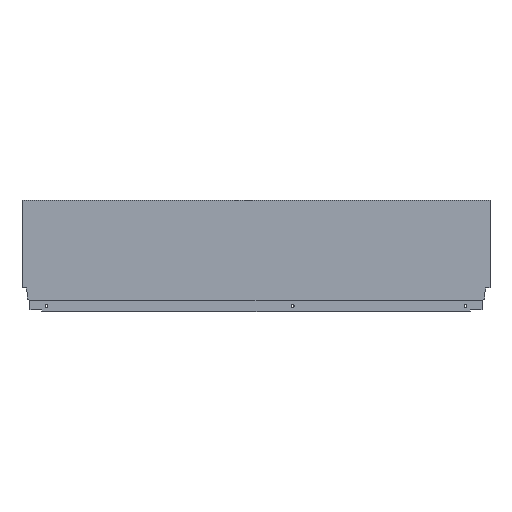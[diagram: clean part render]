
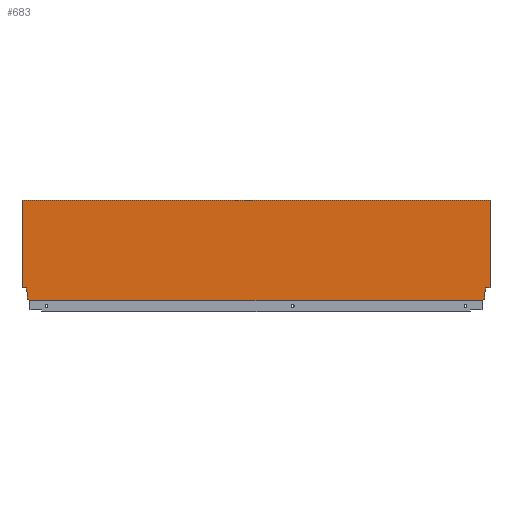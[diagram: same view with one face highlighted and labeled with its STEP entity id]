
A CAD part, top view. The second image highlights one B-rep face of the part: STEP entity #683.
In plain terms, the highlighted planar face has unit normal (0, 0, 1).
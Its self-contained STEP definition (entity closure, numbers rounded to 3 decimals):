
#191 = CARTESIAN_POINT ( 'NONE',  ( -765., 0., 7.5 ) ) ;
#193 = PLANE ( 'NONE',  #1266 ) ;
#196 = DIRECTION ( 'NONE',  ( 0., 0., 1. ) ) ;
#198 = DIRECTION ( 'NONE',  ( 1., 0., 0. ) ) ;
#204 = DIRECTION ( 'NONE',  ( -0.174, 0.985, 0. ) ) ;
#205 = CARTESIAN_POINT ( 'NONE',  ( -756.1, 2.64, 7.5 ) ) ;
#240 = CARTESIAN_POINT ( 'NONE',  ( 0., 164.7, 7.5 ) ) ;
#250 = CARTESIAN_POINT ( 'NONE',  ( -765., 21.2, 7.5 ) ) ;
#256 = CARTESIAN_POINT ( 'NONE',  ( -13.004, 1.146, 7.5 ) ) ;
#258 = CARTESIAN_POINT ( 'NONE',  ( -756.1, 2.64, 7.5 ) ) ;
#261 = CARTESIAN_POINT ( 'NONE',  ( -757.94, 21.2, 7.5 ) ) ;
#262 = DIRECTION ( 'NONE',  ( 1., 0., 0. ) ) ;
#264 = CARTESIAN_POINT ( 'NONE',  ( -751.996, 1.146, 7.5 ) ) ;
#265 = CARTESIAN_POINT ( 'NONE',  ( -751.996, 0., 7.5 ) ) ;
#285 = CARTESIAN_POINT ( 'NONE',  ( -8.9, 10.765, 7.5 ) ) ;
#287 = CARTESIAN_POINT ( 'NONE',  ( -8.9, 2.64, 7.5 ) ) ;
#299 = CARTESIAN_POINT ( 'NONE',  ( -756.1, 10.765, 7.5 ) ) ;
#300 = CARTESIAN_POINT ( 'NONE',  ( 0., 21.2, 7.5 ) ) ;
#309 = CARTESIAN_POINT ( 'NONE',  ( -765., 164.7, 7.5 ) ) ;
#313 = CARTESIAN_POINT ( 'NONE',  ( -7.06, 21.2, 7.5 ) ) ;
#316 = CARTESIAN_POINT ( 'NONE',  ( -13.004, 0., 7.5 ) ) ;
#339 = VERTEX_POINT ( 'NONE', #316 ) ;
#342 = VERTEX_POINT ( 'NONE', #313 ) ;
#346 = VERTEX_POINT ( 'NONE', #309 ) ;
#356 = VERTEX_POINT ( 'NONE', #300 ) ;
#357 = VERTEX_POINT ( 'NONE', #299 ) ;
#376 = DIRECTION ( 'NONE',  ( -0.94, -0.342, 0. ) ) ;
#377 = CARTESIAN_POINT ( 'NONE',  ( 0., 0., 7.5 ) ) ;
#378 = CARTESIAN_POINT ( 'NONE',  ( -8.9, 2.64, 7.5 ) ) ;
#379 = VERTEX_POINT ( 'NONE', #287 ) ;
#380 = CARTESIAN_POINT ( 'NONE',  ( -757.94, 21.2, 7.5 ) ) ;
#383 = VERTEX_POINT ( 'NONE', #285 ) ;
#384 = DIRECTION ( 'NONE',  ( 0., -1., 0. ) ) ;
#430 = VERTEX_POINT ( 'NONE', #265 ) ;
#433 = VERTEX_POINT ( 'NONE', #264 ) ;
#439 = VERTEX_POINT ( 'NONE', #261 ) ;
#454 = VERTEX_POINT ( 'NONE', #258 ) ;
#466 = VERTEX_POINT ( 'NONE', #256 ) ;
#477 = CARTESIAN_POINT ( 'NONE',  ( 0., 21.2, 7.5 ) ) ;
#479 = CARTESIAN_POINT ( 'NONE',  ( -765., 164.7, 7.5 ) ) ;
#481 = DIRECTION ( 'NONE',  ( -1., 0., 0. ) ) ;
#483 = DIRECTION ( 'NONE',  ( 1., 0., 0. ) ) ;
#511 = DIRECTION ( 'NONE',  ( -0.174, -0.985, 0. ) ) ;
#513 = DIRECTION ( 'NONE',  ( 0., -1., 0. ) ) ;
#514 = CARTESIAN_POINT ( 'NONE',  ( -8.9, 10.765, 7.5 ) ) ;
#521 = CARTESIAN_POINT ( 'NONE',  ( -7.06, 21.2, 7.5 ) ) ;
#522 = DIRECTION ( 'NONE',  ( 0., -1., 0. ) ) ;
#524 = DIRECTION ( 'NONE',  ( 0., -1., 0. ) ) ;
#525 = DIRECTION ( 'NONE',  ( -1., 0., 0. ) ) ;
#526 = CARTESIAN_POINT ( 'NONE',  ( -765., 0., 7.5 ) ) ;
#530 = CARTESIAN_POINT ( 'NONE',  ( -770., 21.2, 7.5 ) ) ;
#534 = VERTEX_POINT ( 'NONE', #250 ) ;
#536 = DIRECTION ( 'NONE',  ( -0.94, 0.342, 0. ) ) ;
#537 = CARTESIAN_POINT ( 'NONE',  ( -765., 0., 7.5 ) ) ;
#543 = CARTESIAN_POINT ( 'NONE',  ( -756.1, 10.765, 7.5 ) ) ;
#544 = CARTESIAN_POINT ( 'NONE',  ( -13.004, 1.146, 7.5 ) ) ;
#545 = DIRECTION ( 'NONE',  ( 0., 1., 0. ) ) ;
#547 = DIRECTION ( 'NONE',  ( 0., 1., 0. ) ) ;
#555 = CARTESIAN_POINT ( 'NONE',  ( -751.996, 1.146, 7.5 ) ) ;
#591 = VERTEX_POINT ( 'NONE', #240 ) ;
#683 = ADVANCED_FACE ( 'NONE', ( #1522 ), #193, .T. ) ;
#725 = EDGE_CURVE ( 'NONE', #430, #433, #1459, .T. ) ;
#729 = EDGE_CURVE ( 'NONE', #439, #534, #1458, .T. ) ;
#731 = EDGE_CURVE ( 'NONE', #454, #357, #1446, .T. ) ;
#732 = EDGE_CURVE ( 'NONE', #430, #339, #1443, .T. ) ;
#733 = EDGE_CURVE ( 'NONE', #466, #339, #1444, .T. ) ;
#734 = EDGE_CURVE ( 'NONE', #357, #439, #1437, .T. ) ;
#735 = EDGE_CURVE ( 'NONE', #379, #466, #1445, .T. ) ;
#736 = EDGE_CURVE ( 'NONE', #433, #454, #1440, .T. ) ;
#737 = EDGE_CURVE ( 'NONE', #591, #356, #1438, .T. ) ;
#738 = EDGE_CURVE ( 'NONE', #346, #534, #1434, .T. ) ;
#740 = EDGE_CURVE ( 'NONE', #383, #379, #1432, .T. ) ;
#742 = EDGE_CURVE ( 'NONE', #342, #383, #1408, .T. ) ;
#744 = EDGE_CURVE ( 'NONE', #356, #342, #1396, .T. ) ;
#746 = EDGE_CURVE ( 'NONE', #346, #591, #1399, .T. ) ;
#832 = ORIENTED_EDGE ( 'NONE', *, *, #733, .F. ) ;
#833 = ORIENTED_EDGE ( 'NONE', *, *, #732, .T. ) ;
#834 = ORIENTED_EDGE ( 'NONE', *, *, #725, .F. ) ;
#835 = ORIENTED_EDGE ( 'NONE', *, *, #736, .F. ) ;
#836 = ORIENTED_EDGE ( 'NONE', *, *, #731, .F. ) ;
#837 = ORIENTED_EDGE ( 'NONE', *, *, #734, .F. ) ;
#908 = ORIENTED_EDGE ( 'NONE', *, *, #746, .F. ) ;
#909 = ORIENTED_EDGE ( 'NONE', *, *, #737, .F. ) ;
#910 = ORIENTED_EDGE ( 'NONE', *, *, #744, .F. ) ;
#920 = ORIENTED_EDGE ( 'NONE', *, *, #742, .F. ) ;
#921 = ORIENTED_EDGE ( 'NONE', *, *, #740, .F. ) ;
#922 = ORIENTED_EDGE ( 'NONE', *, *, #735, .F. ) ;
#960 = ORIENTED_EDGE ( 'NONE', *, *, #729, .F. ) ;
#961 = ORIENTED_EDGE ( 'NONE', *, *, #738, .T. ) ;
#1069 = EDGE_LOOP ( 'NONE', ( #961, #960, #837, #836, #835, #834, #833, #832, #922, #921, #920, #910, #909, #908 ) ) ;
#1266 = AXIS2_PLACEMENT_3D ( 'NONE', #191, #196, #198 ) ;
#1392 = VECTOR ( 'NONE', #483, 1000. ) ;
#1395 = VECTOR ( 'NONE', #481, 1000. ) ;
#1396 = LINE ( 'NONE', #477, #1395 ) ;
#1399 = LINE ( 'NONE', #479, #1392 ) ;
#1400 = VECTOR ( 'NONE', #511, 1000. ) ;
#1404 = VECTOR ( 'NONE', #522, 1000. ) ;
#1408 = LINE ( 'NONE', #521, #1400 ) ;
#1409 = VECTOR ( 'NONE', #513, 1000. ) ;
#1431 = VECTOR ( 'NONE', #524, 1000. ) ;
#1432 = LINE ( 'NONE', #514, #1404 ) ;
#1433 = VECTOR ( 'NONE', #536, 1000. ) ;
#1434 = LINE ( 'NONE', #537, #1409 ) ;
#1435 = VECTOR ( 'NONE', #376, 1000. ) ;
#1436 = VECTOR ( 'NONE', #204, 1000. ) ;
#1437 = LINE ( 'NONE', #380, #1436 ) ;
#1438 = LINE ( 'NONE', #377, #1431 ) ;
#1439 = VECTOR ( 'NONE', #384, 1000. ) ;
#1440 = LINE ( 'NONE', #205, #1433 ) ;
#1441 = VECTOR ( 'NONE', #262, 1000. ) ;
#1443 = LINE ( 'NONE', #526, #1441 ) ;
#1444 = LINE ( 'NONE', #544, #1439 ) ;
#1445 = LINE ( 'NONE', #378, #1435 ) ;
#1446 = LINE ( 'NONE', #543, #1450 ) ;
#1447 = VECTOR ( 'NONE', #525, 1000. ) ;
#1450 = VECTOR ( 'NONE', #545, 1000. ) ;
#1457 = VECTOR ( 'NONE', #547, 1000. ) ;
#1458 = LINE ( 'NONE', #530, #1447 ) ;
#1459 = LINE ( 'NONE', #555, #1457 ) ;
#1522 = FACE_OUTER_BOUND ( 'NONE', #1069, .T. ) ;
